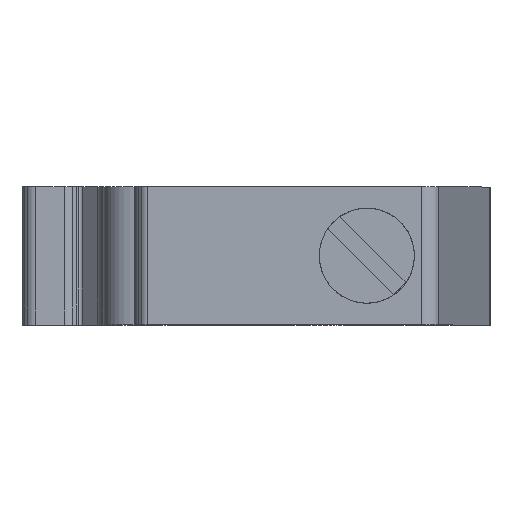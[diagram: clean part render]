
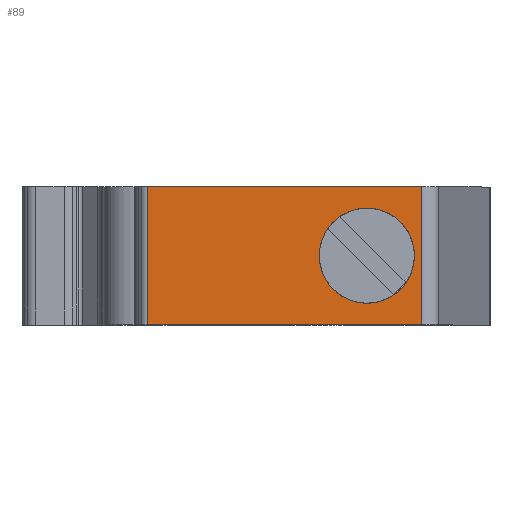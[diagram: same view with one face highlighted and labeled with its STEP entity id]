
A CAD part, top view. The second image highlights one B-rep face of the part: STEP entity #89.
In plain terms, the highlighted planar face has unit normal (0, 0, 1).
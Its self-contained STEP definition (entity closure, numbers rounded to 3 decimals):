
#89 = ADVANCED_FACE( '', ( #205, #206 ), #207, .F. );
#205 = FACE_OUTER_BOUND( '', #348, .T. );
#206 = FACE_BOUND( '', #349, .T. );
#207 = PLANE( '', #350 );
#348 = EDGE_LOOP( '', ( #762, #763, #764, #765 ) );
#349 = EDGE_LOOP( '', ( #766 ) );
#350 = AXIS2_PLACEMENT_3D( '', #767, #768, #769 );
#762 = ORIENTED_EDGE( '', *, *, #1072, .T. );
#763 = ORIENTED_EDGE( '', *, *, #1157, .F. );
#764 = ORIENTED_EDGE( '', *, *, #1158, .F. );
#765 = ORIENTED_EDGE( '', *, *, #1159, .T. );
#766 = ORIENTED_EDGE( '', *, *, #1007, .T. );
#767 = CARTESIAN_POINT( '', ( 1.911, 7.95, 16. ) );
#768 = DIRECTION( '', ( 0., 0., -1. ) );
#769 = DIRECTION( '', ( -1., 0., 0. ) );
#1007 = EDGE_CURVE( '', #1205, #1205, #1206, .T. );
#1072 = EDGE_CURVE( '', #1330, #1328, #1331, .T. );
#1157 = EDGE_CURVE( '', #1463, #1328, #1465, .T. );
#1158 = EDGE_CURVE( '', #1466, #1463, #1467, .T. );
#1159 = EDGE_CURVE( '', #1466, #1330, #1468, .T. );
#1205 = VERTEX_POINT( '', #1533 );
#1206 = CIRCLE( '', #1534, 2.75 );
#1328 = VERTEX_POINT( '', #1691 );
#1330 = VERTEX_POINT( '', #1693 );
#1331 = LINE( '', #1694, #1695 );
#1463 = VERTEX_POINT( '', #1888 );
#1465 = LINE( '', #1890, #1891 );
#1466 = VERTEX_POINT( '', #1892 );
#1467 = LINE( '', #1893, #1894 );
#1468 = LINE( '', #1895, #1896 );
#1533 = CARTESIAN_POINT( '', ( -4., 4., 16. ) );
#1534 = AXIS2_PLACEMENT_3D( '', #1992, #1993, #1994 );
#1691 = CARTESIAN_POINT( '', ( 1.911, 0., 16. ) );
#1693 = CARTESIAN_POINT( '', ( -13.943, 0., 16. ) );
#1694 = CARTESIAN_POINT( '', ( 1.911, 0., 16. ) );
#1695 = VECTOR( '', #2117, 1000. );
#1888 = CARTESIAN_POINT( '', ( 1.911, 8., 16. ) );
#1890 = CARTESIAN_POINT( '', ( 1.911, 7.95, 16. ) );
#1891 = VECTOR( '', #2248, 1000. );
#1892 = CARTESIAN_POINT( '', ( -13.943, 8., 16. ) );
#1893 = CARTESIAN_POINT( '', ( -4.3, 8., 16. ) );
#1894 = VECTOR( '', #2249, 1000. );
#1895 = CARTESIAN_POINT( '', ( -13.943, 7.95, 16. ) );
#1896 = VECTOR( '', #2250, 1000. );
#1992 = CARTESIAN_POINT( '', ( -1.25, 4., 16. ) );
#1993 = DIRECTION( '', ( 0., 0., -1. ) );
#1994 = DIRECTION( '', ( -1., 0., 0. ) );
#2117 = DIRECTION( '', ( 1., 0., 0. ) );
#2248 = DIRECTION( '', ( 0., -1., 0. ) );
#2249 = DIRECTION( '', ( 1., 0., 0. ) );
#2250 = DIRECTION( '', ( 0., -1., 0. ) );
